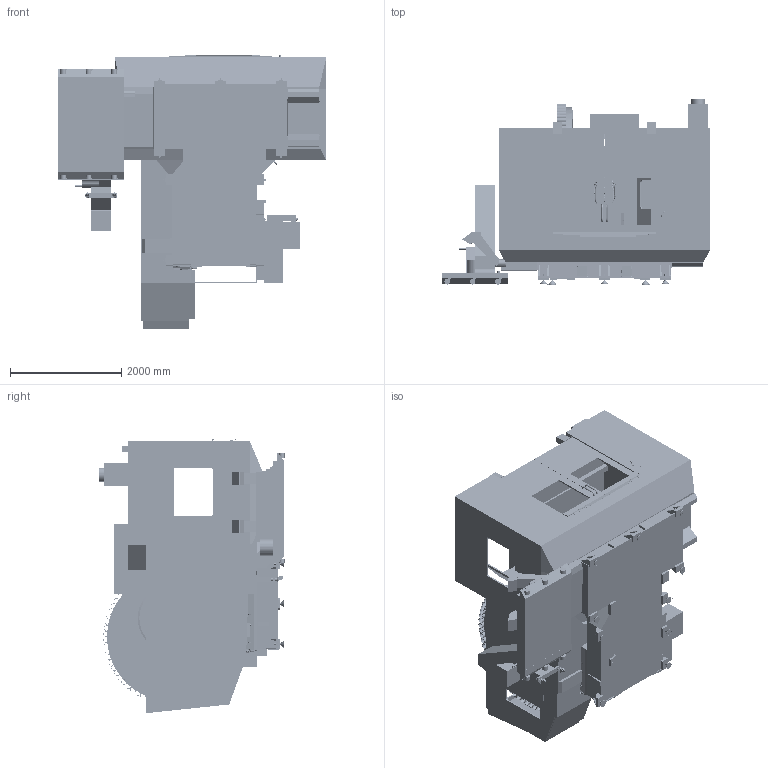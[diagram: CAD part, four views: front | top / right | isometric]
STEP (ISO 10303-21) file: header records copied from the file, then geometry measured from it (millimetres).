
FILE_DESCRIPTION (( 'STEP AP203' ), '1' );
FILE_NAME ('EC-1600ZT-10_2025.STEP', '2025-10-02T00:13:19', ( '' ), ( '' ), 'SwSTEP 2.0', 'SolidWorks 2023', '' );
FILE_SCHEMA (( 'CONFIG_CONTROL_DESIGN' ));
Length unit declared in the file: inch
Products named in the file (22): EC1600ZT-95 Gallon Coolant Tank; EC1600ZT-Way Covers; EC1600ZT-70 Pkt Tool Changer Arm Down; EC1600ZT-Control Panel; EC1600ZT-Auto Doors; EC1600ZT-Enclosure SA; EC1600ZT-Base Casting; EC1600ZT-In-Tank Belt Style Chip Conveyor; EC1600ZT-Chip Chute; EC1600ZT-Spindle Head; EC1600ZT-50 Pkt Tool Changer Arm Down; EC1600ZT-70 Pkt Tool Changer Assembly; EC1600ZT-Anchor Pattern; EC-1600ZT-10_2025; EC1600ZT-Y-Z Axis; EC1600ZT-Integrated 4th Axis Table; EC1600ZT-Side Doors; EC1600ZT-70 Pkt Tool Changer Arm Up; EC1600ZT-T Slot Table; EC1600ZT-50 Pkt Tool Changer Assembly; EC1600ZT-Leveling Pads; EC1600ZT-50 Pkt Tool Changer Arm Up
Assembly tree (21 placements, depth 2):
  EC-1600ZT-10_2025
    EC1600ZT-Anchor Pattern
    EC1600ZT-Base Casting
    EC1600ZT-Leveling Pads
    EC1600ZT-Y-Z Axis
    EC1600ZT-Spindle Head
    EC1600ZT-Way Covers
    EC1600ZT-50 Pkt Tool Changer Assembly
    EC1600ZT-50 Pkt Tool Changer Arm Up
    EC1600ZT-50 Pkt Tool Changer Arm Down
    EC1600ZT-70 Pkt Tool Changer Assembly
    EC1600ZT-70 Pkt Tool Changer Arm Up
    EC1600ZT-70 Pkt Tool Changer Arm Down
    EC1600ZT-Integrated 4th Axis Table
    EC1600ZT-T Slot Table
    EC1600ZT-Auto Doors
    EC1600ZT-Control Panel
    EC1600ZT-95 Gallon Coolant Tank
    EC1600ZT-In-Tank Belt Style Chip Conveyor
    EC1600ZT-Chip Chute
    EC1600ZT-Side Doors
    EC1600ZT-Enclosure SA
Bounding box: 4833.15 x 3330.06 x 4938.03 mm (x, y, z)
Volume: 8521198509.4 mm3; surface area: 246871387.1 mm2
Topology: 95 solids, 102 shells, 9321 faces, 24209 edges, 15238 vertices
Faces by surface type: plane 5101, cylinder 2686, cone 777, bspline 440, sphere 171, torus 146
Entity records: 314516 total; most frequent: CARTESIAN_POINT 87606, ORIENTED_EDGE 48240, DIRECTION 45857, EDGE_CURVE 24120, AXIS2_PLACEMENT_3D 15724, VERTEX_POINT 15236, VECTOR 14409, LINE 14409
